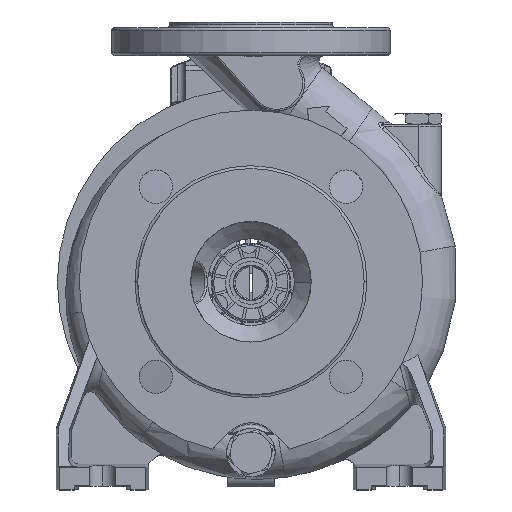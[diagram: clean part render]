
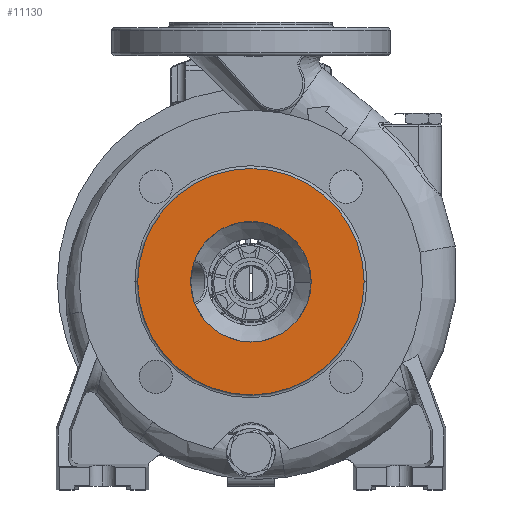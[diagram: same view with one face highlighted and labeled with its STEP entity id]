
A CAD part, top view. The second image highlights one B-rep face of the part: STEP entity #11130.
In plain terms, the highlighted planar face has unit normal (0, 0, 1).
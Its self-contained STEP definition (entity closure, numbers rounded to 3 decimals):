
#525 = CARTESIAN_POINT ( 'NONE',  ( 32.5, 0., 80. ) ) ;
#1475 = EDGE_LOOP ( 'NONE', ( #88359, #23896 ) ) ;
#8541 = FACE_BOUND ( 'NONE', #1475, .T. ) ;
#11130 = ADVANCED_FACE ( 'NONE', ( #8541, #35448 ), #81874, .T. ) ;
#12823 = EDGE_CURVE ( 'NONE', #41699, #52878, #65614, .T. ) ;
#18368 = DIRECTION ( 'NONE',  ( 1., 0., 0. ) ) ;
#22872 = VERTEX_POINT ( 'NONE', #116825 ) ;
#23384 = AXIS2_PLACEMENT_3D ( 'NONE', #117578, #69859, #23411 ) ;
#23411 = DIRECTION ( 'NONE',  ( 1., 0., 0. ) ) ;
#23896 = ORIENTED_EDGE ( 'NONE', *, *, #53375, .T. ) ;
#26302 = DIRECTION ( 'NONE',  ( 1., 0., 0. ) ) ;
#31154 = CIRCLE ( 'NONE', #23384, 32.5 ) ;
#32578 = AXIS2_PLACEMENT_3D ( 'NONE', #91695, #63578, #18368 ) ;
#35448 = FACE_OUTER_BOUND ( 'NONE', #43984, .T. ) ;
#36735 = CARTESIAN_POINT ( 'NONE',  ( -61., 0., 80. ) ) ;
#41699 = VERTEX_POINT ( 'NONE', #55169 ) ;
#43984 = EDGE_LOOP ( 'NONE', ( #90880, #76327 ) ) ;
#44169 = AXIS2_PLACEMENT_3D ( 'NONE', #51084, #116567, #52887 ) ;
#51084 = CARTESIAN_POINT ( 'NONE',  ( 0., 0., 80. ) ) ;
#52035 = AXIS2_PLACEMENT_3D ( 'NONE', #102694, #110097, #26302 ) ;
#52878 = VERTEX_POINT ( 'NONE', #525 ) ;
#52887 = DIRECTION ( 'NONE',  ( 1., 0., 0. ) ) ;
#53375 = EDGE_CURVE ( 'NONE', #52878, #41699, #31154, .T. ) ;
#53572 = CARTESIAN_POINT ( 'NONE',  ( 0., 0., 80. ) ) ;
#55169 = CARTESIAN_POINT ( 'NONE',  ( -32.5, 0., 80. ) ) ;
#61659 = CIRCLE ( 'NONE', #90707, 61. ) ;
#63578 = DIRECTION ( 'NONE',  ( 0., 0., 1. ) ) ;
#64980 = EDGE_CURVE ( 'NONE', #83680, #22872, #79387, .T. ) ;
#65614 = CIRCLE ( 'NONE', #44169, 32.5 ) ;
#69859 = DIRECTION ( 'NONE',  ( 0., 0., -1. ) ) ;
#76327 = ORIENTED_EDGE ( 'NONE', *, *, #64980, .T. ) ;
#79387 = CIRCLE ( 'NONE', #32578, 61. ) ;
#81688 = DIRECTION ( 'NONE',  ( 0., 0., 1. ) ) ;
#81874 = PLANE ( 'NONE',  #52035 ) ;
#83680 = VERTEX_POINT ( 'NONE', #36735 ) ;
#88359 = ORIENTED_EDGE ( 'NONE', *, *, #12823, .T. ) ;
#90707 = AXIS2_PLACEMENT_3D ( 'NONE', #53572, #81688, #112883 ) ;
#90880 = ORIENTED_EDGE ( 'NONE', *, *, #120296, .T. ) ;
#91695 = CARTESIAN_POINT ( 'NONE',  ( 0., 0., 80. ) ) ;
#102694 = CARTESIAN_POINT ( 'NONE',  ( 0., 28.891, 80. ) ) ;
#110097 = DIRECTION ( 'NONE',  ( 0., 0., 1. ) ) ;
#112883 = DIRECTION ( 'NONE',  ( 1., 0., 0. ) ) ;
#116567 = DIRECTION ( 'NONE',  ( 0., 0., -1. ) ) ;
#116825 = CARTESIAN_POINT ( 'NONE',  ( 61., 0., 80. ) ) ;
#117578 = CARTESIAN_POINT ( 'NONE',  ( 0., 0., 80. ) ) ;
#120296 = EDGE_CURVE ( 'NONE', #22872, #83680, #61659, .T. ) ;
